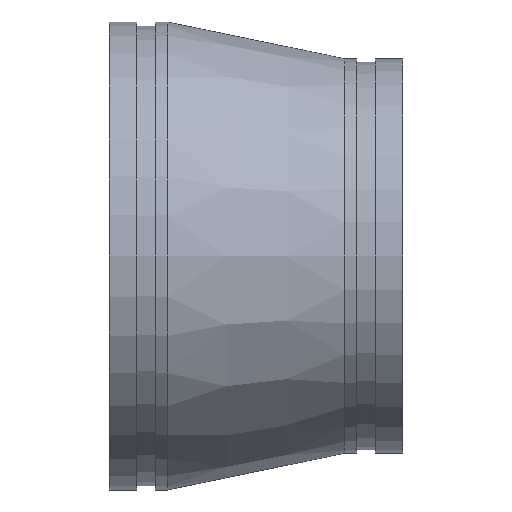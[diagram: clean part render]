
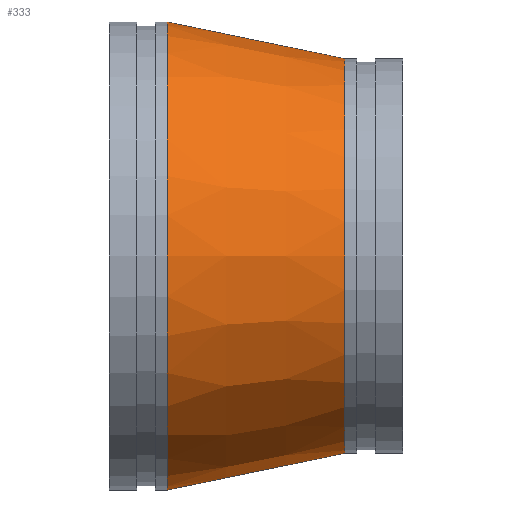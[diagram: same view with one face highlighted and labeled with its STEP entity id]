
A CAD part, front view. The second image highlights one B-rep face of the part: STEP entity #333.
In plain terms, the highlighted conical face has half-angle 11.674 degrees and reference radius 149.225 mm.
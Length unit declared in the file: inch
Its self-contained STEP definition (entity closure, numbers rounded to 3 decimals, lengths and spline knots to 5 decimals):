
#65=FACE_OUTER_BOUND('',#81,.T.);
#81=EDGE_LOOP('',(#229,#230,#231,#232,#233,#234));
#103=LINE('',#571,#113);
#113=VECTOR('',#438,5.875);
#123=CIRCLE('',#370,5.375);
#124=CIRCLE('',#371,5.375);
#125=CIRCLE('',#372,6.375);
#126=CIRCLE('',#373,6.375);
#155=VERTEX_POINT('',#566);
#156=VERTEX_POINT('',#567);
#157=VERTEX_POINT('',#570);
#158=VERTEX_POINT('',#572);
#187=EDGE_CURVE('',#155,#156,#123,.T.);
#188=EDGE_CURVE('',#156,#155,#124,.T.);
#189=EDGE_CURVE('',#156,#157,#103,.T.);
#190=EDGE_CURVE('',#157,#158,#125,.T.);
#191=EDGE_CURVE('',#158,#157,#126,.T.);
#229=ORIENTED_EDGE('',*,*,#187,.F.);
#230=ORIENTED_EDGE('',*,*,#188,.F.);
#231=ORIENTED_EDGE('',*,*,#189,.T.);
#232=ORIENTED_EDGE('',*,*,#190,.T.);
#233=ORIENTED_EDGE('',*,*,#191,.T.);
#234=ORIENTED_EDGE('',*,*,#189,.F.);
#313=CONICAL_SURFACE('',#369,5.875,0.204);
#333=ADVANCED_FACE('',(#65),#313,.T.);
#369=AXIS2_PLACEMENT_3D('',#565,#432,#433);
#370=AXIS2_PLACEMENT_3D('',#568,#434,#435);
#371=AXIS2_PLACEMENT_3D('',#569,#436,#437);
#372=AXIS2_PLACEMENT_3D('',#573,#439,#440);
#373=AXIS2_PLACEMENT_3D('',#574,#441,#442);
#432=DIRECTION('center_axis',(-1.,0.,0.));
#433=DIRECTION('ref_axis',(0.,1.,0.));
#434=DIRECTION('center_axis',(1.,0.,0.));
#435=DIRECTION('ref_axis',(0.,1.,0.));
#436=DIRECTION('center_axis',(1.,0.,0.));
#437=DIRECTION('ref_axis',(0.,1.,0.));
#438=DIRECTION('',(-0.979,-0.202,0.));
#439=DIRECTION('center_axis',(1.,0.,0.));
#440=DIRECTION('ref_axis',(0.,1.,0.));
#441=DIRECTION('center_axis',(1.,0.,0.));
#442=DIRECTION('ref_axis',(0.,1.,0.));
#565=CARTESIAN_POINT('Origin',(4.,0.,0.));
#566=CARTESIAN_POINT('',(6.42,5.375,0.));
#567=CARTESIAN_POINT('',(6.42,-5.375,0.));
#568=CARTESIAN_POINT('Origin',(6.42,0.,0.));
#569=CARTESIAN_POINT('Origin',(6.42,0.,0.));
#570=CARTESIAN_POINT('',(1.58,-6.375,0.));
#571=CARTESIAN_POINT('',(4.,-5.875,0.));
#572=CARTESIAN_POINT('',(1.58,6.375,0.));
#573=CARTESIAN_POINT('Origin',(1.58,0.,0.));
#574=CARTESIAN_POINT('Origin',(1.58,0.,0.));
